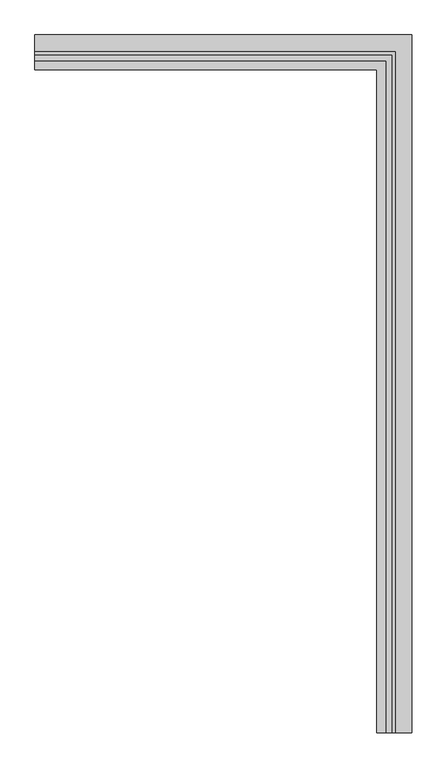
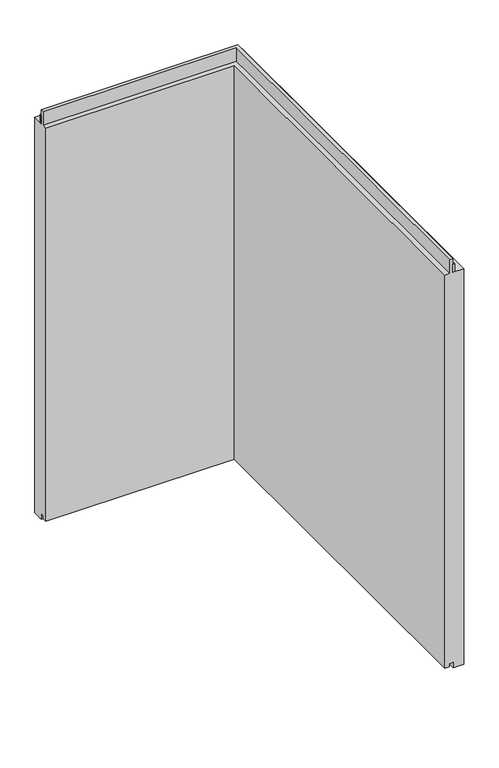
"""IFC4 building model written with IfcOpenShell, lengths in millimetres: plate geometry, Trimo_Qbiss Screen_L Corner Panel-HORIZONTAL : HR - B."""

from ifc_helpers import new_model, si_unit, frame, origin, place, context, project, spatial, polyline, outline, extrude, faceted_brep, source, transform, mapped, element, save


def plate_0b95a8c3(model_context):
    return source(origin(), model_context, "Body", "SolidModel", [
        extrude(outline(polyline([(-213.75, 71.0), (-213.75, 76.0), (302.25, 76.0), (302.25, -900.0), (297.25, -900.0), (297.25, 71.0), (-213.75, 71.0)])), frame((0.0, 0.0, 1090.5), z_axis=(0.0, 0.0, 1.0), x_axis=(1.0, 0.0, 0.0)), (0.0, 0.0, 1.0), 21.0),
        faceted_brep([(-213.75, 71.0, 1089.5), (-213.75, 100.0, 1089.5), (-213.75, 100.0, 0.0), (-213.75, 72.0, 0.0), (-213.75, 72.0, 15.5), (-213.75, 62.0, 15.5), (-213.75, 62.0, 7.0), (-213.75, 50.0, 7.0), (-213.75, 50.0, 1089.5), (-213.75, 63.0, 1089.5), (-213.75, 63.0, 1127.0), (-213.75, 71.0, 1127.0), (297.25, 71.0, 1089.5), (297.25, -900.0, 1089.5), (326.25, -900.0, 1089.5), (326.25, 100.0, 1089.5), (326.25, 100.0, 0.0), (326.25, -900.0, 0.0), (298.25, -900.0, 0.0), (298.25, 72.0, 0.0), (298.25, 72.0, 15.5), (298.25, -900.0, 15.5), (288.25, -900.0, 15.5), (288.25, 62.0, 15.5), (288.25, 62.0, 7.0), (288.25, -900.0, 7.0), (276.25, -900.0, 7.0), (276.25, 50.0, 7.0), (276.25, 50.0, 1089.5), (276.25, -900.0, 1089.5), (289.25, -900.0, 1089.5), (289.25, 63.0, 1089.5), (289.25, 63.0, 1127.0), (289.25, -900.0, 1127.0), (297.25, -900.0, 1127.0), (297.25, 71.0, 1127.0)], [[[0, 1, 2, 3, 4, 5, 6, 7, 8, 9, 10, 11]], [[1, 0, 12, 13, 14, 15]], [[2, 1, 15, 16]], [[3, 2, 16, 17, 18, 19]], [[4, 3, 19, 20]], [[5, 4, 20, 21, 22, 23]], [[6, 5, 23, 24]], [[7, 6, 24, 25, 26, 27]], [[8, 7, 27, 28]], [[9, 8, 28, 29, 30, 31]], [[10, 9, 31, 32]], [[11, 10, 32, 33, 34, 35]], [[0, 11, 35, 12]], [[13, 34, 33, 30, 29, 26, 25, 22, 21, 18, 17, 14]], [[16, 15, 14, 17]], [[20, 19, 18, 21]], [[24, 23, 22, 25]], [[28, 27, 26, 29]], [[32, 31, 30, 33]], [[12, 35, 34, 13]]]),
    ])


if __name__ == "__main__":
    model = new_model("IFC4")
    model_context = context("Model", 3, world=origin())
    ifc_project = project(units=[si_unit("LENGTHUNIT", "METRE", prefix="MILLI")], contexts=[model_context])
    site = spatial("IfcSite", under=ifc_project)
    building = spatial("IfcBuilding", under=site)
    placement = place(None, origin())
    plate_shape = plate_0b95a8c3(model_context)
    element("IfcPlate", 1, ObjectType="Trimo_Qbiss Screen_L Corner Panel-HORIZONTAL : HR - B", at=placement, inside=building, context=model_context, shape_type="MappedRepresentation", body=[
        mapped(plate_shape, transform((0.0, 0.0, 0.0), x_axis=(1.0, 0.0, 0.0), y_axis=(0.0, 1.0, 0.0), z_axis=(0.0, 0.0, 1.0))),
    ])
    save(model, "model.ifc")
